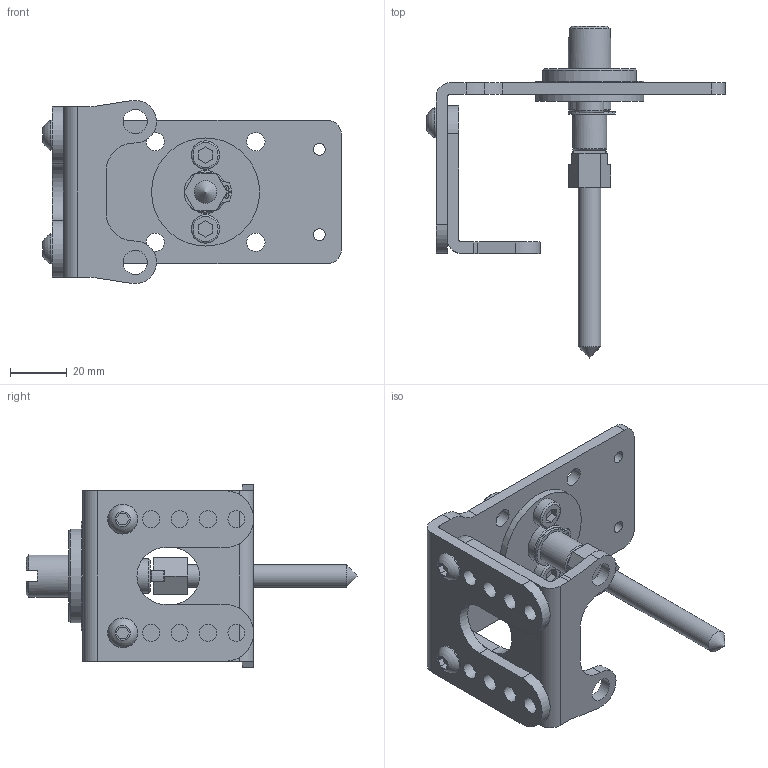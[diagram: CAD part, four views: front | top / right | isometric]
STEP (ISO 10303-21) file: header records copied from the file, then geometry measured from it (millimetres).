
FILE_DESCRIPTION( ( 'STEP AP203' ), '1' );
FILE_NAME( 'p:/temp/worker_65/temp/exporttempdir_2704_695_bkeov/format_3/E12771.stp', '2022-03-15T10:44:10', ( 'License CC BY-ND 4.0' ), ( 'CADENAS' ), ' ', 'PARTsolutions', ' ' );
FILE_SCHEMA( ( 'CONFIG_CONTROL_DESIGN' ) );
Length unit declared in the file: millimetre
Products named in the file (5): E12771; _E12771_P1; _E12771_P2; _E12771_P3; _E12771_P4
Assembly tree (4 placements, depth 2):
  E12771
    _E12771_P1
    _E12771_P2
    _E12771_P3
    _E12771_P4
Bounding box: 105.05 x 116.75 x 64.5 mm (x, y, z)
Volume: 59857.6 mm3; surface area: 32802.9 mm2
Topology: 4 solids, 4 shells, 191 faces, 493 edges, 325 vertices
Faces by surface type: plane 99, cylinder 72, cone 16, sphere 2, torus 2
Full cylindrical faces by diameter (mm): 1.7 x2, 4.2 x6, 4.8 x1, 5 x3, 5.2 x2, 6 x8, 6.5 x4, 8 x1, 8.5 x2, 10 x2, 10.5 x2, 12 x1, 15 x2, 33 x1, 38 x2
Entity records: 5776 total; most frequent: CARTESIAN_POINT 1008, DIRECTION 976, ORIENTED_EDGE 856, EDGE_CURVE 428, AXIS2_PLACEMENT_3D 370, VERTEX_POINT 314, EDGE_LOOP 304, LINE 236
